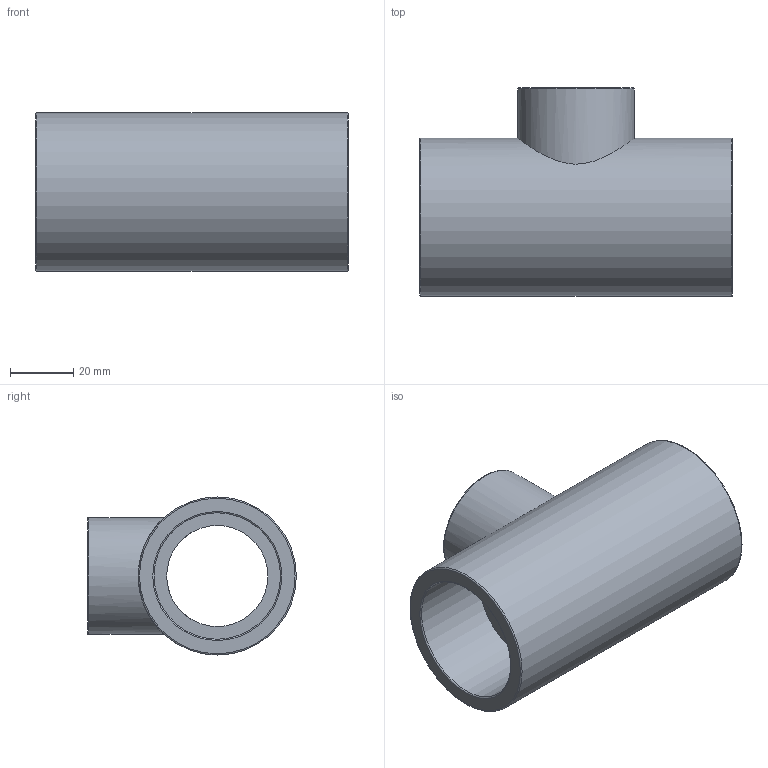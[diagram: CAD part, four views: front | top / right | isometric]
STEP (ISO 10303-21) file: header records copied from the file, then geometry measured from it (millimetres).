
FILE_DESCRIPTION(/* description */ ('PLASSON REDUCER TEE - CEMENT PVC 40-25-40'),/* implementation_level */ '2;1');
FILE_NAME(/* name */ 'C:\Dropbox\KIMPROJECTS-Inventor\99-16-3568-Processing\PVC Catalog 2017\051400\051400040025.ipt.stp',/* time_stamp */ '2017-12-07T16:00:14+02:00',/* author */ ('KIM'),/* organization */ (''),/* preprocessor_version */ 'ST-DEVELOPER v15.6',/* originating_system */ 'Autodesk Inventor 2015',/* authorisation */ '');
FILE_SCHEMA (('AUTOMOTIVE_DESIGN { 1 0 10303 214 3 1 1 }'));
Length unit declared in the file: millimetre
Products named in the file (1): 051400040025
Bounding box: 99 x 66 x 50 mm (x, y, z)
Volume: 97811.7 mm3; surface area: 32501.2 mm2
Topology: 1 solids, 1 shells, 19 faces, 39 edges, 24 vertices
Faces by surface type: cylinder 7, torus 6, plane 6
Full cylindrical faces by diameter (mm): 22.5 x1, 25 x1, 32 x1, 37 x1, 40 x2, 50 x1
Entity records: 534 total; most frequent: CARTESIAN_POINT 174, DIRECTION 76, EDGE_LOOP 40, ORIENTED_EDGE 40, AXIS2_PLACEMENT_3D 38, FACE_BOUND 21, VERTEX_POINT 20, EDGE_CURVE 20
